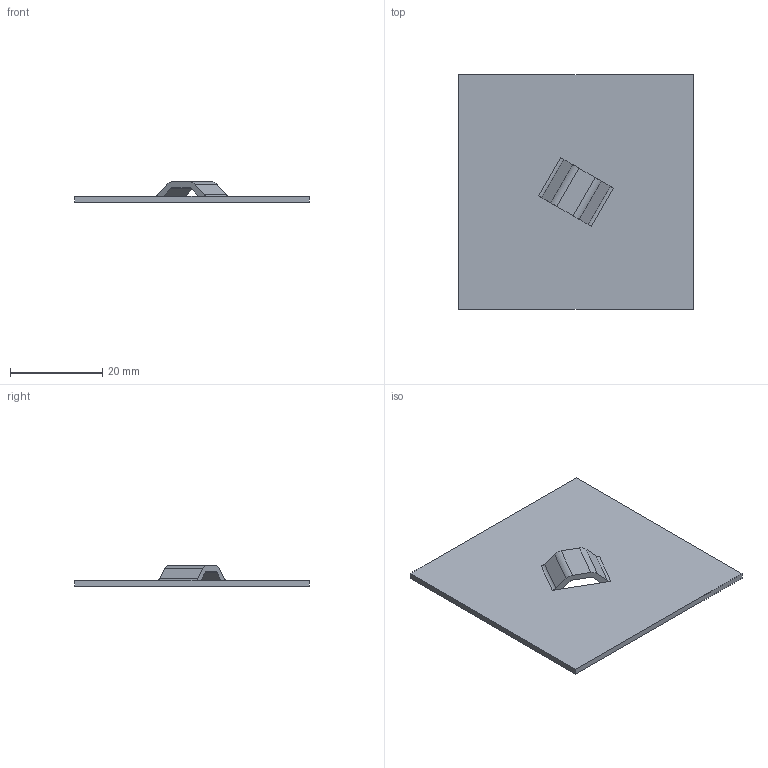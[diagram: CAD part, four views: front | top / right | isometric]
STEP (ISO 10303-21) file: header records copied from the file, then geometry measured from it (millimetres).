
FILE_DESCRIPTION((''),'1');
FILE_NAME('C:/Users/robertnolte/Desktop/WT#770391-10.stp','2012-03-28T01:14:36',(''),(''),'Spatial Interop R21 SP3','Kubotek KeyCreator 2011 V10.5.0 (24766)',' ');
FILE_SCHEMA(('CONFIG_CONTROL_DESIGN'));
Length unit declared in the file: inch
Products named in the file (1): 1
Bounding box: 50.8 x 50.8 x 4.45 mm (x, y, z)
Volume: 3305.9 mm3; surface area: 5521.3 mm2
Topology: 1 solids, 1 shells, 24 faces, 68 edges, 44 vertices
Faces by surface type: plane 16, cylinder 8
Entity records: 828 total; most frequent: CARTESIAN_POINT 137, ORIENTED_EDGE 136, DIRECTION 134, EDGE_CURVE 68, LINE 52, VECTOR 52, VERTEX_POINT 44, AXIS2_PLACEMENT_3D 41
